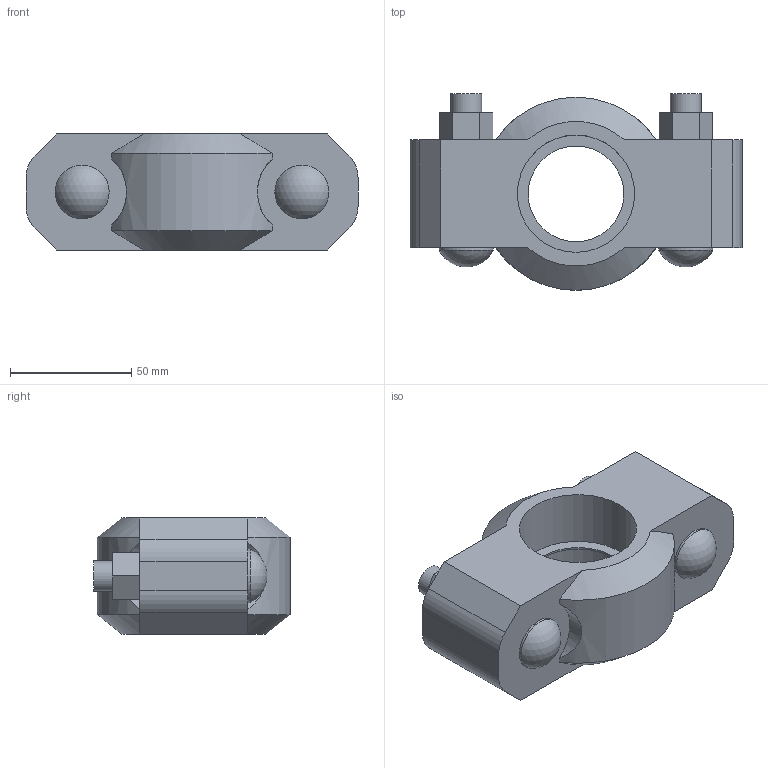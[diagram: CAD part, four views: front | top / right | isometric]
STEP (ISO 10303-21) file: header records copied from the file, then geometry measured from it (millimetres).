
FILE_DESCRIPTION(/* description */ ('Victaulic Standard Flexible Coupling Style 77','CAx-IF Rec.Pracs.---Representation and Presentation of Product Manufacturing Information (PMI)---4.0---2014-10-13'),/* implementation_level */ '2;1');
FILE_NAME(/* name */ 'C:\Users\Vjadhav\Desktop\CAD for Inventor\1\Coupling bolt thickness\77\Victaulic_IPS_Coupling Flexible_Style 77 (OGS)\Victaulic_IPS_Coupling Flexible_Style 77 (OGS)_1.5 (40).stp',/* time_stamp */ '2022-03-24T18:19:49+06:00',/* author */ ('CONSTRUCTION PIPING SERVICES'),/* organization */ ('Victaulic'),/* preprocessor_version */ 'ST-DEVELOPER v17.2',/* originating_system */ 'Autodesk Inventor 2019',/* authorisation */ '');
FILE_SCHEMA (('AP242_MANAGED_MODEL_BASED_3D_ENGINEERING_MIM_LF { 1 0 10303 442 1 1 4 }'));
Length unit declared in the file: inch
Products named in the file (1): 077-01.5
Bounding box: 136.65 x 81.03 x 47.75 mm (x, y, z)
Volume: 262902.8 mm3; surface area: 45771 mm2
Topology: 1 solids, 3 shells, 61 faces, 142 edges, 95 vertices
Faces by surface type: plane 34, cylinder 21, cone 4, sphere 2
Full cylindrical faces by diameter (mm): 12.7 x4, 14.605 x2, 22.225 x2, 39.37 x1, 48.26 x2
Entity records: 2043 total; most frequent: CARTESIAN_POINT 416, DIRECTION 323, ORIENTED_EDGE 284, EDGE_CURVE 142, AXIS2_PLACEMENT_3D 118, VERTEX_POINT 95, LINE 87, VECTOR 87
